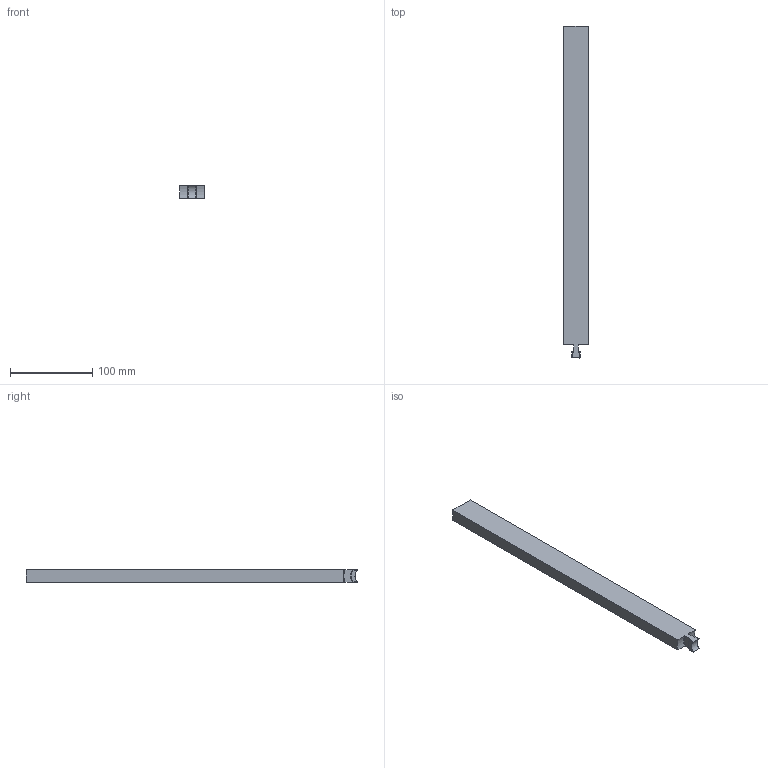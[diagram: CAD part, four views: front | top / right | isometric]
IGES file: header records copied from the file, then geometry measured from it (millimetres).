
Start section: SolidWorks IGES file using analytic representation for surfaces
Global section: file name: C:\temp\GO\Files\CBMMH15X30L400.igs; native system: SolidWorks 2023; preprocessor: SolidWorks 2023; author: andrew.sweeney; date: 260223.130133; units: millimetre
Bounding box: 30 x 403.39 x 15 mm (x, y, z)
Surface area: 36507.3 mm2 (no closed solid volume)
Topology: 0 solids, 0 shells, 28 faces, 312 edges, 312 vertices
Faces by surface type: bspline 19, revolution 9
